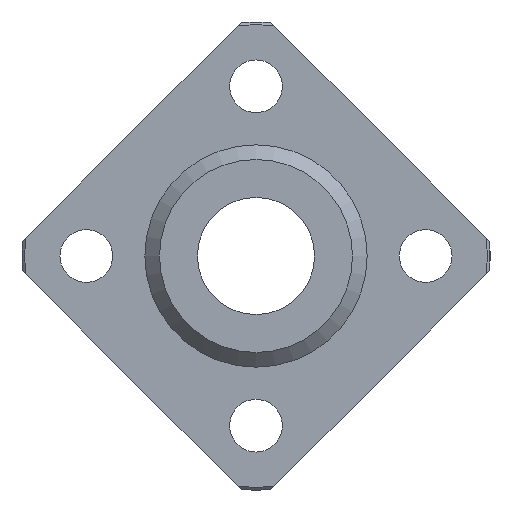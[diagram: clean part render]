
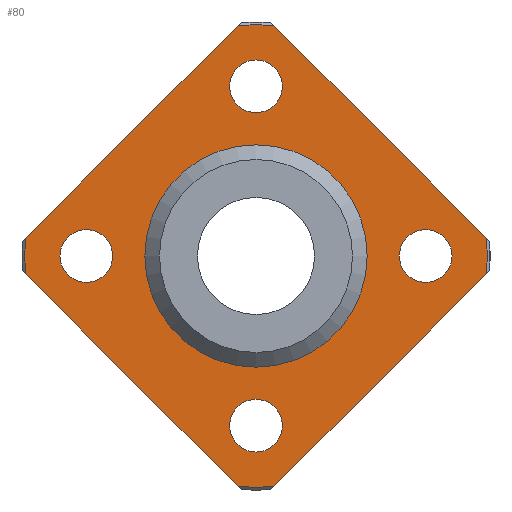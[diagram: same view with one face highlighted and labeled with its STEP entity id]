
A CAD part, left-side view. The second image highlights one B-rep face of the part: STEP entity #80.
In plain terms, the highlighted planar face has unit normal (-1, 0, 0).
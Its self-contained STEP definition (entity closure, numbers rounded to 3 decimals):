
#80=ADVANCED_FACE('',(#122,#123,#124,#125,#126,#127),#128,.F.);
#122=FACE_BOUND('',#216,.T.);
#123=FACE_BOUND('',#217,.T.);
#124=FACE_BOUND('',#218,.T.);
#125=FACE_BOUND('',#219,.T.);
#126=FACE_BOUND('',#220,.T.);
#127=FACE_OUTER_BOUND('',#221,.T.);
#128=PLANE('',#222);
#216=EDGE_LOOP('',(#337));
#217=EDGE_LOOP('',(#338));
#218=EDGE_LOOP('',(#339));
#219=EDGE_LOOP('',(#340));
#220=EDGE_LOOP('',(#341));
#221=EDGE_LOOP('',(#342,#343,#344,#345,#346,#347,#348,#349));
#222=AXIS2_PLACEMENT_3D('',#350,#351,#352);
#337=ORIENTED_EDGE('',*,*,#560,.T.);
#338=ORIENTED_EDGE('',*,*,#561,.T.);
#339=ORIENTED_EDGE('',*,*,#562,.T.);
#340=ORIENTED_EDGE('',*,*,#563,.T.);
#341=ORIENTED_EDGE('',*,*,#559,.T.);
#342=ORIENTED_EDGE('',*,*,#564,.F.);
#343=ORIENTED_EDGE('',*,*,#565,.T.);
#344=ORIENTED_EDGE('',*,*,#542,.F.);
#345=ORIENTED_EDGE('',*,*,#566,.T.);
#346=ORIENTED_EDGE('',*,*,#567,.F.);
#347=ORIENTED_EDGE('',*,*,#568,.T.);
#348=ORIENTED_EDGE('',*,*,#553,.F.);
#349=ORIENTED_EDGE('',*,*,#569,.T.);
#350=CARTESIAN_POINT('',(-9.0,19.746,0.0));
#351=DIRECTION('',(1.0,0.0,0.0));
#352=DIRECTION('',(0.0,0.0,-1.0));
#542=EDGE_CURVE('',#614,#616,#617,.T.);
#553=EDGE_CURVE('',#635,#637,#638,.T.);
#559=EDGE_CURVE('',#648,#648,#649,.T.);
#560=EDGE_CURVE('',#650,#650,#651,.T.);
#561=EDGE_CURVE('',#652,#652,#653,.T.);
#562=EDGE_CURVE('',#654,#654,#655,.T.);
#563=EDGE_CURVE('',#656,#656,#657,.T.);
#564=EDGE_CURVE('',#658,#659,#660,.T.);
#565=EDGE_CURVE('',#658,#616,#661,.T.);
#566=EDGE_CURVE('',#614,#662,#663,.T.);
#567=EDGE_CURVE('',#664,#662,#665,.T.);
#568=EDGE_CURVE('',#664,#637,#666,.T.);
#569=EDGE_CURVE('',#635,#659,#667,.T.);
#614=VERTEX_POINT('',#741);
#616=VERTEX_POINT('',#746);
#617=LINE('',#747,#748);
#635=VERTEX_POINT('',#781);
#637=VERTEX_POINT('',#786);
#638=LINE('',#787,#788);
#648=VERTEX_POINT('',#805);
#649=CIRCLE('',#806,9.5);
#650=VERTEX_POINT('',#807);
#651=CIRCLE('',#808,2.25);
#652=VERTEX_POINT('',#809);
#653=CIRCLE('',#810,2.25);
#654=VERTEX_POINT('',#811);
#655=CIRCLE('',#812,2.25);
#656=VERTEX_POINT('',#813);
#657=CIRCLE('',#814,2.25);
#658=VERTEX_POINT('',#815);
#659=VERTEX_POINT('',#816);
#660=LINE('',#817,#818);
#661=CIRCLE('',#819,19.746);
#662=VERTEX_POINT('',#820);
#663=CIRCLE('',#821,19.746);
#664=VERTEX_POINT('',#822);
#665=LINE('',#823,#824);
#666=CIRCLE('',#825,19.746);
#667=CIRCLE('',#826,19.746);
#741=CARTESIAN_POINT('',(-9.0,-1.526,19.687));
#746=CARTESIAN_POINT('',(-9.0,-19.687,1.526));
#747=CARTESIAN_POINT('',(-9.0,-0.734,20.48));
#748=VECTOR('',#917,1.0);
#781=CARTESIAN_POINT('',(-9.0,1.526,-19.687));
#786=CARTESIAN_POINT('',(-9.0,19.687,-1.526));
#787=CARTESIAN_POINT('',(-9.0,20.48,-0.734));
#788=VECTOR('',#927,1.0);
#805=CARTESIAN_POINT('',(-9.0,0.0,-9.5));
#806=AXIS2_PLACEMENT_3D('',#935,#936,#937);
#807=CARTESIAN_POINT('',(-9.0,0.0,12.25));
#808=AXIS2_PLACEMENT_3D('',#938,#939,#940);
#809=CARTESIAN_POINT('',(-9.0,-14.5,-2.25));
#810=AXIS2_PLACEMENT_3D('',#941,#942,#943);
#811=CARTESIAN_POINT('',(-9.0,0.0,-16.75));
#812=AXIS2_PLACEMENT_3D('',#944,#945,#946);
#813=CARTESIAN_POINT('',(-9.0,14.5,-2.25));
#814=AXIS2_PLACEMENT_3D('',#947,#948,#949);
#815=CARTESIAN_POINT('',(-9.0,-19.687,-1.526));
#816=CARTESIAN_POINT('',(-9.0,-1.526,-19.687));
#817=CARTESIAN_POINT('',(-9.0,-0.734,-20.48));
#818=VECTOR('',#950,1.0);
#819=AXIS2_PLACEMENT_3D('',#951,#952,#953);
#820=CARTESIAN_POINT('',(-9.0,1.526,19.687));
#821=AXIS2_PLACEMENT_3D('',#954,#955,#956);
#822=CARTESIAN_POINT('',(-9.0,19.687,1.526));
#823=CARTESIAN_POINT('',(-9.0,20.48,0.734));
#824=VECTOR('',#957,1.0);
#825=AXIS2_PLACEMENT_3D('',#958,#959,#960);
#826=AXIS2_PLACEMENT_3D('',#961,#962,#963);
#917=DIRECTION('',(0.0,-0.707,-0.707));
#927=DIRECTION('',(0.0,0.707,0.707));
#935=CARTESIAN_POINT('',(-9.0,0.0,0.0));
#936=DIRECTION('',(1.0,0.0,0.0));
#937=DIRECTION('',(0.0,0.0,-1.0));
#938=CARTESIAN_POINT('',(-9.0,0.0,14.5));
#939=DIRECTION('',(1.0,0.0,0.0));
#940=DIRECTION('',(0.0,0.0,-1.0));
#941=CARTESIAN_POINT('',(-9.0,-14.5,0.0));
#942=DIRECTION('',(1.0,0.0,0.0));
#943=DIRECTION('',(0.0,0.0,-1.0));
#944=CARTESIAN_POINT('',(-9.0,0.0,-14.5));
#945=DIRECTION('',(1.0,0.0,0.0));
#946=DIRECTION('',(0.0,0.0,-1.0));
#947=CARTESIAN_POINT('',(-9.0,14.5,0.0));
#948=DIRECTION('',(1.0,0.0,0.0));
#949=DIRECTION('',(0.0,0.0,-1.0));
#950=DIRECTION('',(0.0,0.707,-0.707));
#951=CARTESIAN_POINT('',(-9.0,0.0,0.0));
#952=DIRECTION('',(-1.0,0.0,0.0));
#953=DIRECTION('',(0.0,0.0,1.0));
#954=CARTESIAN_POINT('',(-9.0,0.0,0.0));
#955=DIRECTION('',(-1.0,0.0,0.0));
#956=DIRECTION('',(0.0,0.0,1.0));
#957=DIRECTION('',(0.0,-0.707,0.707));
#958=CARTESIAN_POINT('',(-9.0,0.0,0.0));
#959=DIRECTION('',(-1.0,0.0,0.0));
#960=DIRECTION('',(0.0,0.0,1.0));
#961=CARTESIAN_POINT('',(-9.0,0.0,0.0));
#962=DIRECTION('',(-1.0,0.0,0.0));
#963=DIRECTION('',(0.0,0.0,1.0));
